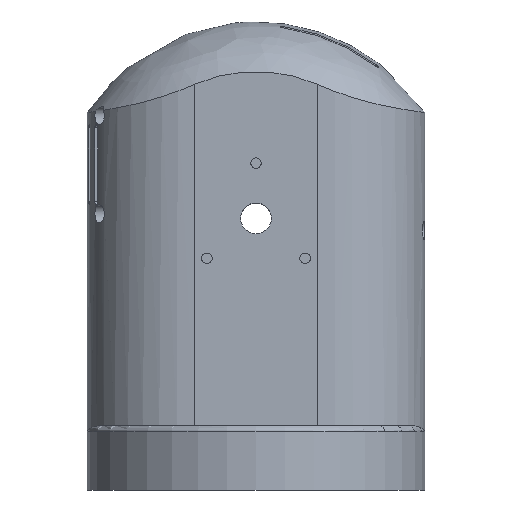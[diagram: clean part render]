
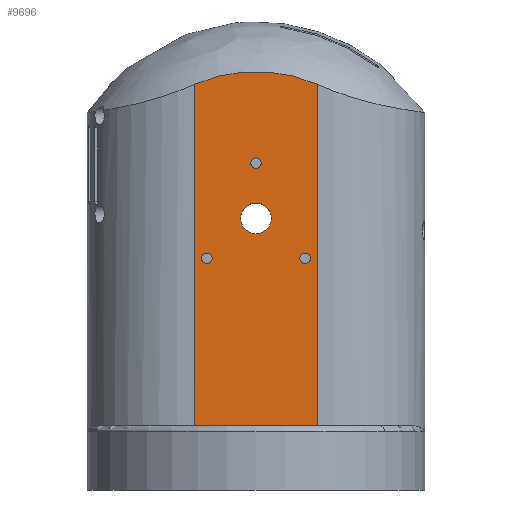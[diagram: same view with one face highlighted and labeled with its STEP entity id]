
A CAD part, front view. The second image highlights one B-rep face of the part: STEP entity #9696.
In plain terms, the highlighted planar face has unit normal (0, -1, 0).
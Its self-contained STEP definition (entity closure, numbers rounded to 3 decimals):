
#629=DIRECTION('',(-1.,0.,0.));
#630=VECTOR('',#629,40.);
#631=CARTESIAN_POINT('',(20.,-35.,21.));
#632=LINE('',#631,#630);
#979=DIRECTION('',(0.,0.,1.));
#980=VECTOR('',#979,111.162);
#981=CARTESIAN_POINT('',(20.,-35.,21.));
#982=LINE('',#981,#980);
#3158=DIRECTION('',(0.,0.,-1.));
#3159=VECTOR('',#3158,111.162);
#3160=CARTESIAN_POINT('',(-20.,-35.,132.162));
#3161=LINE('',#3160,#3159);
#4060=CARTESIAN_POINT('',(0.,-35.,86.5));
#4061=DIRECTION('',(0.,1.,0.));
#4062=DIRECTION('',(-0.401,0.,0.916));
#4063=AXIS2_PLACEMENT_3D('',#4060,#4061,#4062);
#4068=CARTESIAN_POINT('',(0.,-35.,88.5));
#4069=DIRECTION('',(0.,-1.,0.));
#4070=DIRECTION('',(1.,0.,0.));
#4071=AXIS2_PLACEMENT_3D('',#4068,#4069,#4070);
#4076=CARTESIAN_POINT('',(0.,-35.,88.5));
#4077=DIRECTION('',(0.,-1.,0.));
#4078=DIRECTION('',(-1.,0.,0.));
#4079=AXIS2_PLACEMENT_3D('',#4076,#4077,#4078);
#4084=CARTESIAN_POINT('',(16.,-35.,75.5));
#4085=DIRECTION('',(0.,-1.,0.));
#4086=DIRECTION('',(0.,0.,-1.));
#4087=AXIS2_PLACEMENT_3D('',#4084,#4085,#4086);
#4092=CARTESIAN_POINT('',(16.,-35.,75.5));
#4093=DIRECTION('',(0.,-1.,0.));
#4094=DIRECTION('',(0.,0.,1.));
#4095=AXIS2_PLACEMENT_3D('',#4092,#4093,#4094);
#4100=CARTESIAN_POINT('',(0.,-35.,106.5));
#4101=DIRECTION('',(0.,-1.,0.));
#4102=DIRECTION('',(0.,0.,-1.));
#4103=AXIS2_PLACEMENT_3D('',#4100,#4101,#4102);
#4108=CARTESIAN_POINT('',(0.,-35.,106.5));
#4109=DIRECTION('',(0.,-1.,0.));
#4110=DIRECTION('',(0.,0.,1.));
#4111=AXIS2_PLACEMENT_3D('',#4108,#4109,#4110);
#4116=CARTESIAN_POINT('',(-16.,-35.,75.5));
#4117=DIRECTION('',(0.,-1.,0.));
#4118=DIRECTION('',(0.,0.,-1.));
#4119=AXIS2_PLACEMENT_3D('',#4116,#4117,#4118);
#4124=CARTESIAN_POINT('',(-16.,-35.,75.5));
#4125=DIRECTION('',(0.,-1.,0.));
#4126=DIRECTION('',(0.,0.,1.));
#4127=AXIS2_PLACEMENT_3D('',#4124,#4125,#4126);
#4132=CARTESIAN_POINT('',(-20.,-35.,132.162));
#6487=CARTESIAN_POINT('',(20.,-35.,21.));
#6488=CARTESIAN_POINT('',(-20.,-35.,21.));
#6489=VERTEX_POINT('',#6487);
#6490=VERTEX_POINT('',#6488);
#6491=CARTESIAN_POINT('',(20.,-35.,132.162));
#6492=VERTEX_POINT('',#6491);
#6516=VERTEX_POINT('',#4132);
#7007=CARTESIAN_POINT('',(-5.,-35.,88.5));
#7009=VERTEX_POINT('',#7007);
#7010=CARTESIAN_POINT('',(5.,-35.,88.5));
#7011=VERTEX_POINT('',#7010);
#7012=CARTESIAN_POINT('',(16.,-35.,73.8));
#7014=VERTEX_POINT('',#7012);
#7016=CARTESIAN_POINT('',(16.,-35.,77.2));
#7017=VERTEX_POINT('',#7016);
#7020=CARTESIAN_POINT('',(0.,-35.,104.8));
#7022=VERTEX_POINT('',#7020);
#7024=CARTESIAN_POINT('',(0.,-35.,108.2));
#7025=VERTEX_POINT('',#7024);
#7028=CARTESIAN_POINT('',(-16.,-35.,73.8));
#7030=VERTEX_POINT('',#7028);
#7032=CARTESIAN_POINT('',(-16.,-35.,77.2));
#7033=VERTEX_POINT('',#7032);
#9662=CARTESIAN_POINT('',(-20.,-35.,21.));
#9663=DIRECTION('',(0.,1.,0.));
#9664=DIRECTION('',(1.,0.,0.));
#9665=AXIS2_PLACEMENT_3D('',#9662,#9663,#9664);
#9666=PLANE('',#9665);
#9667=ORIENTED_EDGE('',*,*,#7491,.T.);
#9668=ORIENTED_EDGE('',*,*,#9006,.F.);
#9670=ORIENTED_EDGE('',*,*,#9669,.T.);
#9671=ORIENTED_EDGE('',*,*,#7685,.F.);
#9672=EDGE_LOOP('',(#9667,#9668,#9670,#9671));
#9673=FACE_OUTER_BOUND('',#9672,.F.);
#9674=ORIENTED_EDGE('',*,*,#9639,.T.);
#9675=ORIENTED_EDGE('',*,*,#9657,.T.);
#9676=EDGE_LOOP('',(#9674,#9675));
#9677=FACE_BOUND('',#9676,.F.);
#9679=ORIENTED_EDGE('',*,*,#9678,.T.);
#9681=ORIENTED_EDGE('',*,*,#9680,.T.);
#9682=EDGE_LOOP('',(#9679,#9681));
#9683=FACE_BOUND('',#9682,.F.);
#9685=ORIENTED_EDGE('',*,*,#9684,.T.);
#9687=ORIENTED_EDGE('',*,*,#9686,.T.);
#9688=EDGE_LOOP('',(#9685,#9687));
#9689=FACE_BOUND('',#9688,.F.);
#9691=ORIENTED_EDGE('',*,*,#9690,.T.);
#9693=ORIENTED_EDGE('',*,*,#9692,.T.);
#9694=EDGE_LOOP('',(#9691,#9693));
#9695=FACE_BOUND('',#9694,.F.);
#4064=CIRCLE('',#4063,49.85);
#4072=CIRCLE('',#4071,5.);
#4080=CIRCLE('',#4079,5.);
#4088=CIRCLE('',#4087,1.7);
#4096=CIRCLE('',#4095,1.7);
#4104=CIRCLE('',#4103,1.7);
#4112=CIRCLE('',#4111,1.7);
#4120=CIRCLE('',#4119,1.7);
#4128=CIRCLE('',#4127,1.7);
#7491=EDGE_CURVE('',#6489,#6490,#632,.T.);
#7685=EDGE_CURVE('',#6489,#6492,#982,.T.);
#9006=EDGE_CURVE('',#6516,#6490,#3161,.T.);
#9639=EDGE_CURVE('',#7011,#7009,#4072,.T.);
#9657=EDGE_CURVE('',#7009,#7011,#4080,.T.);
#9669=EDGE_CURVE('',#6516,#6492,#4064,.T.);
#9678=EDGE_CURVE('',#7014,#7017,#4088,.T.);
#9680=EDGE_CURVE('',#7017,#7014,#4096,.T.);
#9684=EDGE_CURVE('',#7022,#7025,#4104,.T.);
#9686=EDGE_CURVE('',#7025,#7022,#4112,.T.);
#9690=EDGE_CURVE('',#7030,#7033,#4120,.T.);
#9692=EDGE_CURVE('',#7033,#7030,#4128,.T.);
#9696=ADVANCED_FACE('',(#9673,#9677,#9683,#9689,#9695),#9666,.F.);
